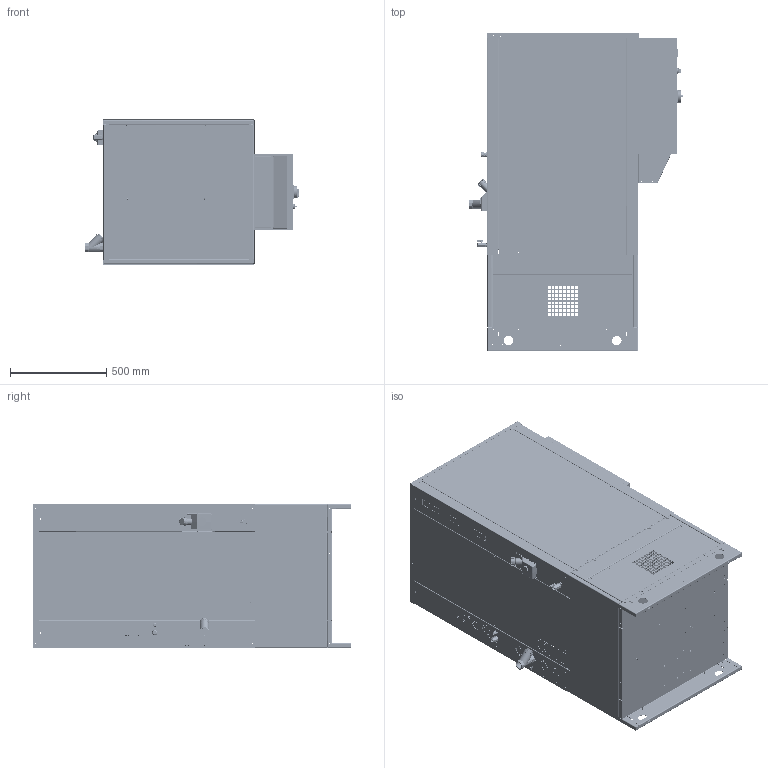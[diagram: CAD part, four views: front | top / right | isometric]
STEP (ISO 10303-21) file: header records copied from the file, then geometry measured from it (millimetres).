
FILE_DESCRIPTION (( 'STEP AP203' ), '1' );
FILE_NAME ('W-SCW_F2H_UL_REV_00.STEP', '2026-07-22T13:34:54', ( '' ), ( '' ), 'SwSTEP 2.0', 'SolidWorks 2023', '' );
FILE_SCHEMA (( 'CONFIG_CONTROL_DESIGN' ));
Length unit declared in the file: millimetre
Products named in the file (42): VR-2F-00017_000; CR-2F-00006_003; W-SCW_F2H_UL_REV_00; VR-2F-00008_003; SE-RR-00025_000; VR-2F-00015_000; VR-2F-00003_001; CR-2F-00007_004; PG 9_2_Nut-PA-Grey-19-19-22-Nelco; PG-16; 50-2F-00003; VR-2F-00014_000; PG 9_Cable-Gland-1.209.0900.14-Nelco; VR-2F-00005_003; VR-2F-00013_000; VR-2D-00034_001; VR-2F-00006_003; VR-2F-00007_004; FILETTO_RUBINETTO_VA-A5-00001; CR-2F-00006_003A; CR-2F-00008; SE-RP-00044_002; FI-AC-00070 - FILTRO Y 11-4 POLLICE; IN-VI-00001; TAPPO 1P  FEM ; VA-A5-00001; SEZIONATORE-GR_D2; VR-2F-00011_000; VR-2F-00002_001; SELETTORE_NERO; CASSA UL 600X400X200; TE-EL-00018; CR-2F-00006_002B; CR-2F-00005_004; VR-2F-00010_000; PG 9_1_Socket-1.209.0900.14-Nelco; RIVELOX M5; VR-2F-00016_000
Assembly tree (72 placements, depth 4):
  W-SCW_F2H_UL_REV_00
    VR-2F-00007_004
    VR-2F-00008_003
    VR-2F-00005_003
    VR-2F-00006_003
    CR-2F-00005_004
    CR-2F-00006_003
      CR-2F-00006_003A
      CR-2F-00006_002B
    VR-2F-00016_000
    CR-2F-00007_004
      CR-2F-00007_004
      RIVELOX M5  x6
    VR-2F-00010_000
    VR-2F-00011_000
    VR-2F-00017_000
    CR-2F-00008
    VR-2F-00002_001
    50-2F-00003
      VR-2F-00015_000  x2
      VR-2F-00013_000
      VR-2F-00014_000  x2
        VR-2F-00014_000
    VR-2F-00003_001
      VR-2F-00003_001
      RIVELOX M5  x24
    PG-16
    PG 9_Cable-Gland-1.209.0900.14-Nelco
      PG 9_1_Socket-1.209.0900.14-Nelco
      PG 9_2_Nut-PA-Grey-19-19-22-Nelco
    IN-VI-00001
    TAPPO 1P  FEM 
    SE-RP-00044_002
    VA-A5-00001
    FILETTO_RUBINETTO_VA-A5-00001
    FI-AC-00070 - FILTRO Y 11-4 POLLICE
    CASSA UL 600X400X200
      CASSA UL 600X400X200
      VR-2D-00034_001
      SE-RR-00025_000
      TE-EL-00018
      SELETTORE_NERO
      SEZIONATORE-GR_D2
Bounding box: 1113.29 x 1656.2 x 757 mm (x, y, z)
Volume: 61189209.1 mm3; surface area: 20898569.2 mm2
Topology: 182 solids, 277 shells, 9940 faces, 25704 edges, 16218 vertices
Faces by surface type: plane 6090, cylinder 2419, bspline 755, cone 367, torus 198, sphere 111
Entity records: 325550 total; most frequent: CARTESIAN_POINT 105495, ORIENTED_EDGE 46515, DIRECTION 39647, EDGE_CURVE 23479, VERTEX_POINT 14842, VECTOR 14401, LINE 14401, AXIS2_PLACEMENT_3D 12623
